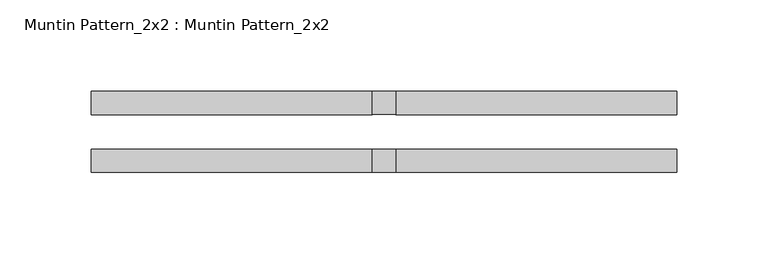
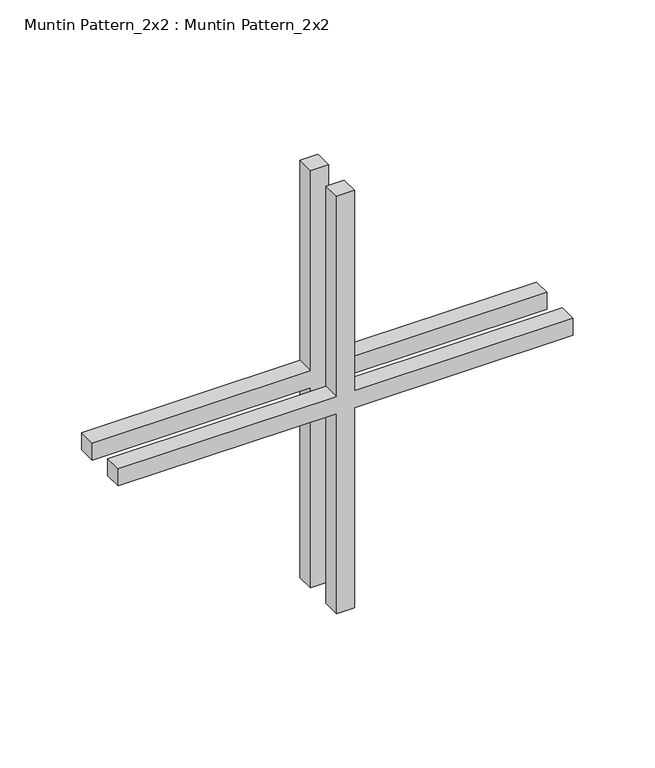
"""IFC4 building model written with IfcOpenShell, lengths in millimetres: proxy geometry, Muntin Pattern_2x2 : Muntin Pattern_2x2."""

from ifc_helpers import new_model, si_unit, frame, origin, place, context, project, spatial, polyline, outline, extrude, source, transform, mapped, element, save


def muntin_pattern_2x2_muntin_pattern_2x2_ebc4046f(model_context):
    return source(origin(), model_context, "Body", "SweptSolid", [
        extrude(outline(polyline([(161.925, -6.35), (161.925, -160.3375), (149.225, -160.3375), (149.225, -6.35), (0.0, -6.35), (0.0, 6.35), (149.225, 6.35), (149.225, 160.3375), (161.925, 160.3375), (161.925, 6.35), (311.15, 6.35), (311.15, -6.35), (161.925, -6.35)])), frame((0.0, 9.525, 0.0), z_axis=(0.0, 1.0, 0.0), x_axis=(0.0, 0.0, 1.0)), (0.0, 0.0, 1.0), 12.7),
        extrude(outline(polyline([(161.925, -6.35), (161.925, -160.3375), (149.225, -160.3375), (149.225, -6.35), (0.0, -6.35), (0.0, 6.35), (149.225, 6.35), (149.225, 160.3375), (161.925, 160.3375), (161.925, 6.35), (311.15, 6.35), (311.15, -6.35), (161.925, -6.35)])), frame((0.0, -22.225, 0.0), z_axis=(0.0, 1.0, 0.0), x_axis=(0.0, 0.0, 1.0)), (0.0, 0.0, 1.0), 12.7),
    ])


if __name__ == "__main__":
    model = new_model("IFC4")
    model_context = context("Model", 3, world=origin())
    ifc_project = project(units=[si_unit("LENGTHUNIT", "METRE", prefix="MILLI")], contexts=[model_context])
    site = spatial("IfcSite", under=ifc_project)
    building = spatial("IfcBuilding", under=site)
    placement = place(None, origin())
    muntin_pattern_2x2_muntin_pattern_2x2_shape = muntin_pattern_2x2_muntin_pattern_2x2_ebc4046f(model_context)
    element("IfcBuildingElementProxy", 1, Name="Muntin Pattern_2x2 : Muntin Pattern_2x2", ObjectType="Muntin Pattern_2x2 : Muntin Pattern_2x2", at=placement, inside=building, context=model_context, shape_type="MappedRepresentation", body=[
        mapped(muntin_pattern_2x2_muntin_pattern_2x2_shape, transform((0.0, 0.0, 0.0), x_axis=(1.0, 0.0, 0.0), y_axis=(0.0, 1.0, 0.0), z_axis=(0.0, 0.0, 1.0))),
    ])
    save(model, "model.ifc")
